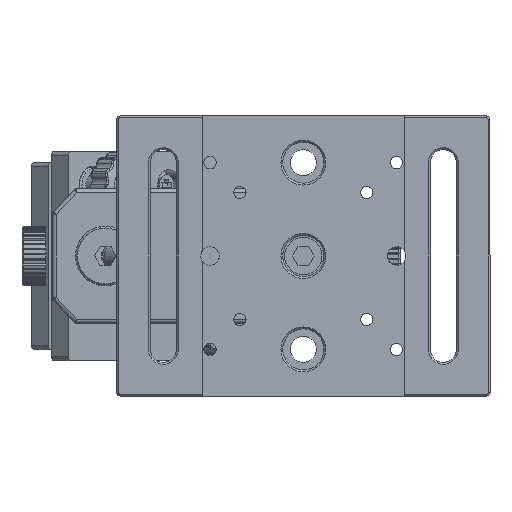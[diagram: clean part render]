
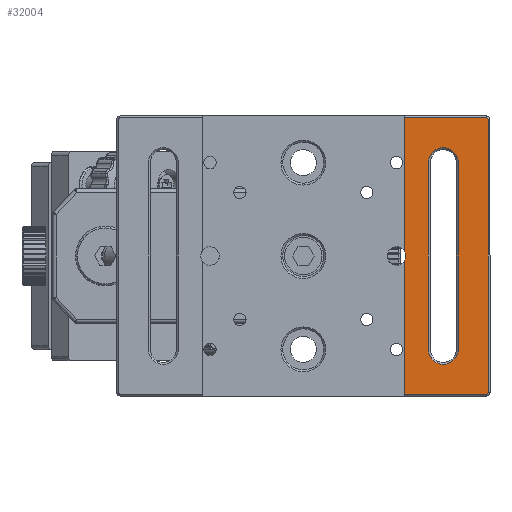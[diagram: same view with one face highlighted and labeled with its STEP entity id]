
A CAD part, front view. The second image highlights one B-rep face of the part: STEP entity #32004.
In plain terms, the highlighted planar face has unit normal (0, -1, 0).
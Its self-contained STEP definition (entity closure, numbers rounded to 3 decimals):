
#6029 = CARTESIAN_POINT ( 'NONE',  ( 25.193, 12.114, -25. ) ) ;
#6031 = CARTESIAN_POINT ( 'NONE',  ( 40.693, 12.114, 37. ) ) ;
#6040 = CARTESIAN_POINT ( 'NONE',  ( 18.693, 12.114, 37. ) ) ;
#6046 = CARTESIAN_POINT ( 'NONE',  ( 25.193, 12.114, 25. ) ) ;
#6048 = CARTESIAN_POINT ( 'NONE',  ( 33.193, 12.114, -25. ) ) ;
#6058 = CARTESIAN_POINT ( 'NONE',  ( 33.193, 12.114, 25. ) ) ;
#6060 = CARTESIAN_POINT ( 'NONE',  ( 40.693, 12.114, -37. ) ) ;
#6063 = CARTESIAN_POINT ( 'NONE',  ( 18.693, 12.114, -1.5 ) ) ;
#6064 = CARTESIAN_POINT ( 'NONE',  ( 41.193, 12.114, 36.5 ) ) ;
#6065 = CARTESIAN_POINT ( 'NONE',  ( 41.193, 12.114, -36.5 ) ) ;
#6066 = CARTESIAN_POINT ( 'NONE',  ( 18.693, 12.114, 1.5 ) ) ;
#6072 = CARTESIAN_POINT ( 'NONE',  ( 18.693, 12.114, -37. ) ) ;
#13158 = AXIS2_PLACEMENT_3D ( 'NONE', #16011, #16012, #16013 ) ;
#13159 = AXIS2_PLACEMENT_3D ( 'NONE', #16023, #16024, #16025 ) ;
#13160 = AXIS2_PLACEMENT_3D ( 'NONE', #16027, #16028, #16029 ) ;
#14901 = CIRCLE ( 'NONE', #13158, 4. ) ;
#14915 = LINE ( 'NONE', #16009, #14921 ) ;
#14918 = CIRCLE ( 'NONE', #13159, 4. ) ;
#14921 = VECTOR ( 'NONE', #16017, 1000. ) ;
#14924 = LINE ( 'NONE', #16019, #14926 ) ;
#14925 = CIRCLE ( 'NONE', #13160, 0.5 ) ;
#14926 = VECTOR ( 'NONE', #16015, 1000. ) ;
#14927 = LINE ( 'NONE', #16021, #14929 ) ;
#14928 = LINE ( 'NONE', #16030, #14931 ) ;
#14929 = VECTOR ( 'NONE', #16022, 1000. ) ;
#14931 = VECTOR ( 'NONE', #16031, 1000. ) ;
#16009 = CARTESIAN_POINT ( 'NONE',  ( 33.193, 12.114, -25. ) ) ;
#16011 = CARTESIAN_POINT ( 'NONE',  ( 29.193, 12.114, 25. ) ) ;
#16012 = DIRECTION ( 'NONE',  ( 0., 1., 0. ) ) ;
#16013 = DIRECTION ( 'NONE',  ( 0., 0., 1. ) ) ;
#16015 = DIRECTION ( 'NONE',  ( 0., 0., 1. ) ) ;
#16017 = DIRECTION ( 'NONE',  ( 0., 0., -1. ) ) ;
#16019 = CARTESIAN_POINT ( 'NONE',  ( 25.193, 12.114, 25. ) ) ;
#16021 = CARTESIAN_POINT ( 'NONE',  ( -58.307, 12.114, 37. ) ) ;
#16022 = DIRECTION ( 'NONE',  ( -1., 0., 0. ) ) ;
#16023 = CARTESIAN_POINT ( 'NONE',  ( 29.193, 12.114, -25. ) ) ;
#16024 = DIRECTION ( 'NONE',  ( 0., 1., 0. ) ) ;
#16025 = DIRECTION ( 'NONE',  ( 0., 0., 1. ) ) ;
#16027 = CARTESIAN_POINT ( 'NONE',  ( 40.693, 12.114, 36.5 ) ) ;
#16028 = DIRECTION ( 'NONE',  ( 0., -1., 0. ) ) ;
#16029 = DIRECTION ( 'NONE',  ( 0., 0., 1. ) ) ;
#16030 = CARTESIAN_POINT ( 'NONE',  ( 18.693, 12.114, 37.5 ) ) ;
#16031 = DIRECTION ( 'NONE',  ( 0., 0., 1. ) ) ;
#19825 = EDGE_LOOP ( 'NONE', ( #44006, #44007, #44008, #44009 ) ) ;
#21861 = VERTEX_POINT ( 'NONE', #6029 ) ;
#21865 = VERTEX_POINT ( 'NONE', #6031 ) ;
#21883 = VERTEX_POINT ( 'NONE', #6040 ) ;
#21893 = VERTEX_POINT ( 'NONE', #6046 ) ;
#21897 = VERTEX_POINT ( 'NONE', #6048 ) ;
#21916 = VERTEX_POINT ( 'NONE', #6058 ) ;
#21918 = VERTEX_POINT ( 'NONE', #6060 ) ;
#21924 = VERTEX_POINT ( 'NONE', #6063 ) ;
#21925 = VERTEX_POINT ( 'NONE', #6064 ) ;
#21926 = VERTEX_POINT ( 'NONE', #6065 ) ;
#21928 = VERTEX_POINT ( 'NONE', #6066 ) ;
#21939 = VERTEX_POINT ( 'NONE', #6072 ) ;
#24748 = EDGE_CURVE ( 'NONE', #21939, #21918, #38543, .T. ) ;
#24753 = EDGE_CURVE ( 'NONE', #21939, #21924, #38547, .T. ) ;
#25637 = EDGE_LOOP ( 'NONE', ( #44010, #44011, #44012, #44013, #44014, #44015, #44016, #44017 ) ) ;
#26441 = EDGE_CURVE ( 'NONE', #21924, #21928, #38576, .T. ) ;
#26442 = EDGE_CURVE ( 'NONE', #21926, #21925, #38578, .T. ) ;
#26446 = EDGE_CURVE ( 'NONE', #21918, #21926, #38583, .T. ) ;
#27245 = AXIS2_PLACEMENT_3D ( 'NONE', #40493, #40494, #40495 ) ;
#27246 = AXIS2_PLACEMENT_3D ( 'NONE', #40502, #40503, #40504 ) ;
#32004 = ADVANCED_FACE ( 'NONE', ( #49635, #49629 ), #48790, .F. ) ;
#38543 = LINE ( 'NONE', #40423, #38548 ) ;
#38547 = LINE ( 'NONE', #40430, #38552 ) ;
#38548 = VECTOR ( 'NONE', #40431, 1000. ) ;
#38552 = VECTOR ( 'NONE', #40434, 1000. ) ;
#38576 = CIRCLE ( 'NONE', #27245, 2.5 ) ;
#38578 = LINE ( 'NONE', #40490, #38580 ) ;
#38580 = VECTOR ( 'NONE', #40485, 1000. ) ;
#38583 = CIRCLE ( 'NONE', #27246, 0.5 ) ;
#40423 = CARTESIAN_POINT ( 'NONE',  ( -58.307, 12.114, -37. ) ) ;
#40430 = CARTESIAN_POINT ( 'NONE',  ( 18.693, 12.114, 37.5 ) ) ;
#40431 = DIRECTION ( 'NONE',  ( 1., 0., 0. ) ) ;
#40434 = DIRECTION ( 'NONE',  ( 0., 0., 1. ) ) ;
#40485 = DIRECTION ( 'NONE',  ( 0., 0., 1. ) ) ;
#40490 = CARTESIAN_POINT ( 'NONE',  ( 41.193, 12.114, 37.5 ) ) ;
#40493 = CARTESIAN_POINT ( 'NONE',  ( 16.693, 12.114, 0. ) ) ;
#40494 = DIRECTION ( 'NONE',  ( 0., -1., 0. ) ) ;
#40495 = DIRECTION ( 'NONE',  ( 0., 0., -1. ) ) ;
#40502 = CARTESIAN_POINT ( 'NONE',  ( 40.693, 12.114, -36.5 ) ) ;
#40503 = DIRECTION ( 'NONE',  ( 0., -1., 0. ) ) ;
#40504 = DIRECTION ( 'NONE',  ( 0., 0., 1. ) ) ;
#43081 = EDGE_CURVE ( 'NONE', #21893, #21916, #14901, .T. ) ;
#43084 = EDGE_CURVE ( 'NONE', #21916, #21897, #14915, .T. ) ;
#43086 = EDGE_CURVE ( 'NONE', #21897, #21861, #14918, .T. ) ;
#43087 = EDGE_CURVE ( 'NONE', #21861, #21893, #14924, .T. ) ;
#43088 = EDGE_CURVE ( 'NONE', #21925, #21865, #14925, .T. ) ;
#43089 = EDGE_CURVE ( 'NONE', #21865, #21883, #14927, .T. ) ;
#43090 = EDGE_CURVE ( 'NONE', #21928, #21883, #14928, .T. ) ;
#44006 = ORIENTED_EDGE ( 'NONE', *, *, #43087, .T. ) ;
#44007 = ORIENTED_EDGE ( 'NONE', *, *, #43081, .T. ) ;
#44008 = ORIENTED_EDGE ( 'NONE', *, *, #43084, .T. ) ;
#44009 = ORIENTED_EDGE ( 'NONE', *, *, #43086, .T. ) ;
#44010 = ORIENTED_EDGE ( 'NONE', *, *, #24753, .F. ) ;
#44011 = ORIENTED_EDGE ( 'NONE', *, *, #24748, .T. ) ;
#44012 = ORIENTED_EDGE ( 'NONE', *, *, #26446, .T. ) ;
#44013 = ORIENTED_EDGE ( 'NONE', *, *, #26442, .T. ) ;
#44014 = ORIENTED_EDGE ( 'NONE', *, *, #43088, .T. ) ;
#44015 = ORIENTED_EDGE ( 'NONE', *, *, #43089, .T. ) ;
#44016 = ORIENTED_EDGE ( 'NONE', *, *, #43090, .F. ) ;
#44017 = ORIENTED_EDGE ( 'NONE', *, *, #26441, .F. ) ;
#45778 = AXIS2_PLACEMENT_3D ( 'NONE', #48788, #48799, #48801 ) ;
#48788 = CARTESIAN_POINT ( 'NONE',  ( -58.307, 12.114, 37.5 ) ) ;
#48790 = PLANE ( 'NONE',  #45778 ) ;
#48799 = DIRECTION ( 'NONE',  ( 0., 1., 0. ) ) ;
#48801 = DIRECTION ( 'NONE',  ( 0., 0., 1. ) ) ;
#49629 = FACE_OUTER_BOUND ( 'NONE', #25637, .T. ) ;
#49635 = FACE_BOUND ( 'NONE', #19825, .T. ) ;
